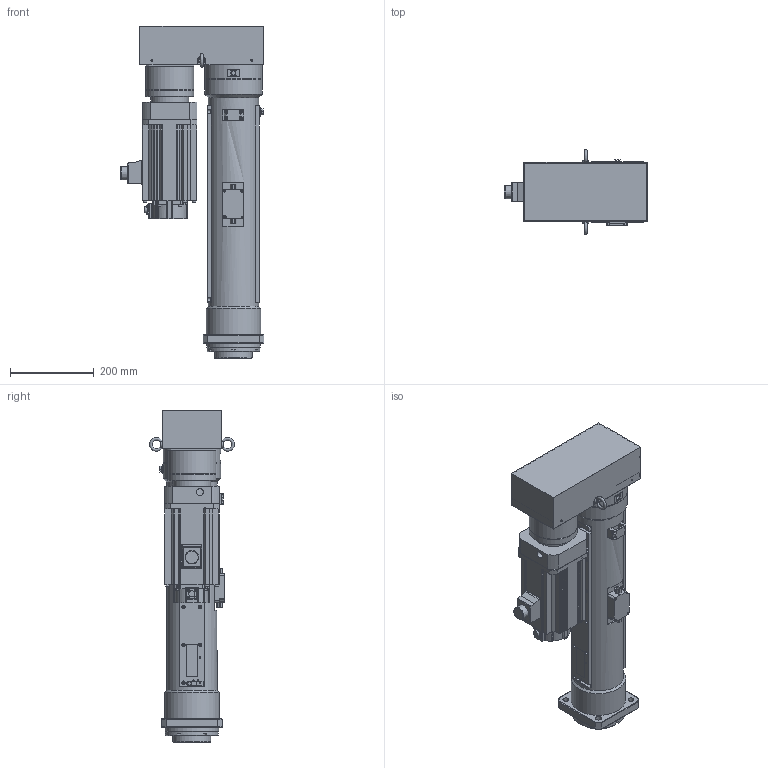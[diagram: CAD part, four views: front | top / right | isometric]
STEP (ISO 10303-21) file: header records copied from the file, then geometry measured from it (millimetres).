
FILE_DESCRIPTION( ('This file contains a STEP AP42 implementation' ,'as created by ZW3D STEP Interface translator.') ,'2;1' );
FILE_NAME( 'OACIS-DC--P035-P040-400-180-A6V200_V20.51.stp' ,'26 422.161012', (''), ('ZWCAD Software Co.'), 'Version 1.0', 'ZW3D to STEP translator', '' );
FILE_SCHEMA(('AUTOMOTIVE_DESIGN { 1 0 10303 214 1 1 1 1 }'));
Length unit declared in the file: millimetre
Products named in the file (1): 0
Bounding box: 342.5 x 202.25 x 791 mm (x, y, z)
Volume: 13572474.5 mm3; surface area: 2132085.9 mm2
Topology: 56 solids, 56 shells, 3367 faces, 8594 edges, 5497 vertices
Faces by surface type: cylinder 1643, plane 1244, cone 351, torus 101, bspline 24, sphere 4
Full cylindrical faces by diameter (mm): 1.567 x4, 2 x1, 2.459 x1, 3.3 x83, 4.2 x4, 4.3 x26, 4.5 x14, 4.917 x20, 5 x1, 5.3 x4, 5.5 x4, 6 x8, 6.5 x4, 6.647 x6, 6.8 x41, 7 x4, 8 x28, 8.4 x8, 8.5 x4, 9 x26, 9.5 x4, 9.78 x8, 10 x3, 10.1 x4, 10.106 x1, 10.2 x16, 10.5 x4, 12 x1, 14 x4, 14.8 x1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
Entity records: 111454 total; most frequent: CARTESIAN_POINT 19663, DIRECTION 19305, ORIENTED_EDGE 16980, EDGE_CURVE 8490, AXIS2_PLACEMENT_3D 7702, VERTEX_POINT 5494, CIRCLE 4339, EDGE_LOOP 4014
